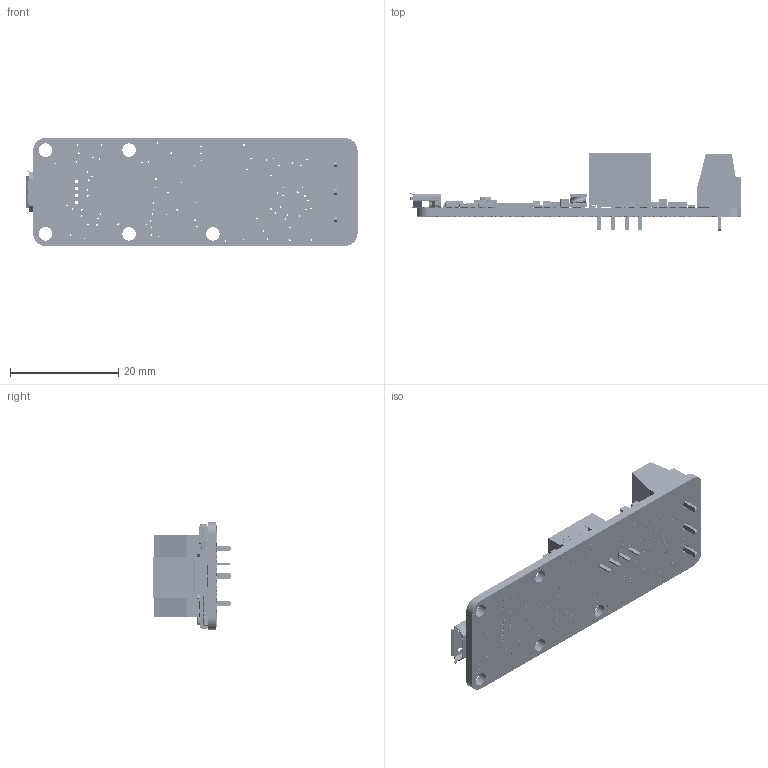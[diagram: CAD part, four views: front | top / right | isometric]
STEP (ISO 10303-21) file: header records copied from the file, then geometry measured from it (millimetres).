
FILE_DESCRIPTION (( 'STEP AP214' ), '1' );
FILE_NAME ('YSDIMK01.STEP', '2024-06-04T10:12:16', ( '' ), ( '' ), 'SwSTEP 2.0', 'SolidWorks 2008', '' );
FILE_SCHEMA (( 'AUTOMOTIVE_DESIGN' ));
Length unit declared in the file: millimetre
Products named in the file (41): PCB; Alim1; C11; C14; C16; C20; C12; C1; C7; REG2; LEDTX; CPU1; R19; R22; R14; R28; R13; R17; C27; R12; R15; T10; YBUTTON; REG1; IC1; USB1; c22; R8; C31; T9; L1; R11; U2; R1; R7; YLED; P1; sens1; R18; YSDIMK01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
Assembly tree (72 placements, depth 2):
  YSDIMK01
    C7
    R7
    REG2
    C1
    C27  x12
    YBUTTON
    C14  x2
    R22  x8
    c22  x2
    T10  x3
    R17
    L1
    C11
    FLASH1
    C31
    R13  x2
    PCB
    LEDTX  x2
    U2  x2
    R19  x2
    CPU1
    IC1
    USB1
    R8
    Alim1
    R28
    R12
    sens1
    R14
    T9  x5
    REG1
    R1
    C12
    R11
    C20  x2
    P1
    R18  x2
    YLED
    C16
    R15
Bounding box: 61.48 x 14.6 x 20 mm (x, y, z)
Volume: 4010.1 mm3; surface area: 5799.4 mm2
Topology: 86 solids, 86 shells, 10920 faces, 28278 edges, 18368 vertices
Faces by surface type: plane 6793, cylinder 2565, bspline 1347, sphere 208, torus 7
Entity records: 410613 total; most frequent: CARTESIAN_POINT 116271, ORIENTED_EDGE 44480, DIRECTION 39592, EDGE_CURVE 22240, LINE 15864, VECTOR 15864, VERTEX_POINT 14669, AXIS2_PLACEMENT_3D 11864
